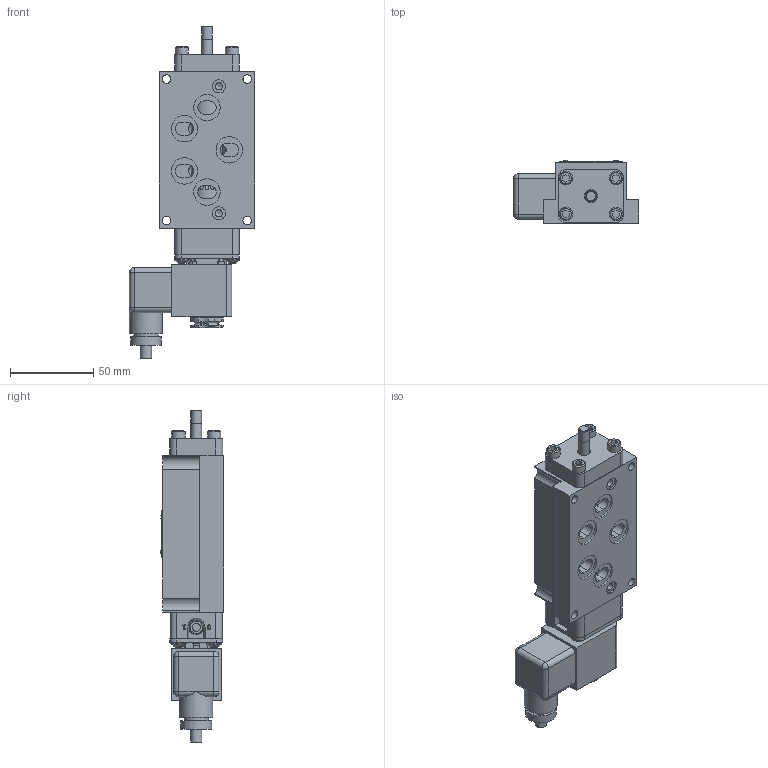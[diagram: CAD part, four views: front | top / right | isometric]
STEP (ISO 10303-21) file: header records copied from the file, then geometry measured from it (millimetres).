
FILE_DESCRIPTION(/* description */ (''),/* implementation_level */ '2;1');
FILE_NAME(/* name */ 'D:\Website New\Valves\Standard\ESO\stp\ESO3PTCK.stp',/* time_stamp */ '2020-03-03T16:56:27-05:00',/* author */ ('RMcKenna'),/* organization */ (''),/* preprocessor_version */ 'ST-DEVELOPER v17',/* originating_system */ 'Autodesk Inventor 2018',/* authorisation */ '');
FILE_SCHEMA (('AUTOMOTIVE_DESIGN { 1 0 10303 214 3 1 1 }'));
Products named in the file (1): Part5
Bounding box: 75.09 x 37.86 x 199.36 mm (x, y, z)
Volume: 227969.8 mm3; surface area: 78860.6 mm2
Topology: 2 solids, 34 shells, 1433 faces, 3566 edges, 2314 vertices
Faces by surface type: plane 610, cylinder 416, cone 236, torus 113, bspline 48, sphere 10
Full cylindrical faces by diameter (mm): 1.168 x10, 1.3 x1, 1.397 x1, 1.5 x1, 2.032 x8, 2.07 x2, 2.261 x2, 2.35 x4, 2.778 x2, 2.8 x1, 2.819 x1, 3 x4, 3.048 x2, 3.175 x1, 3.4 x1, 3.683 x9, 3.861 x2, 4.191 x2, 4.366 x2, 4.369 x3, 4.826 x8, 4.953 x1, 5.105 x4, 5.15 x4, 5.156 x8, 5.159 x4, 5.5 x1, 6.35 x4, 6.553 x1, 6.731 x1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
Entity records: 52870 total; most frequent: CARTESIAN_POINT 16742, DIRECTION 7369, ORIENTED_EDGE 7086, EDGE_CURVE 3543, AXIS2_PLACEMENT_3D 2879, VERTEX_POINT 2314, EDGE_LOOP 1647, LINE 1611
